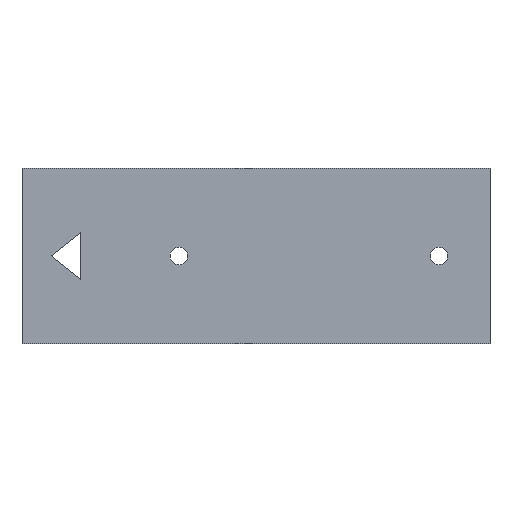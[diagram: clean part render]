
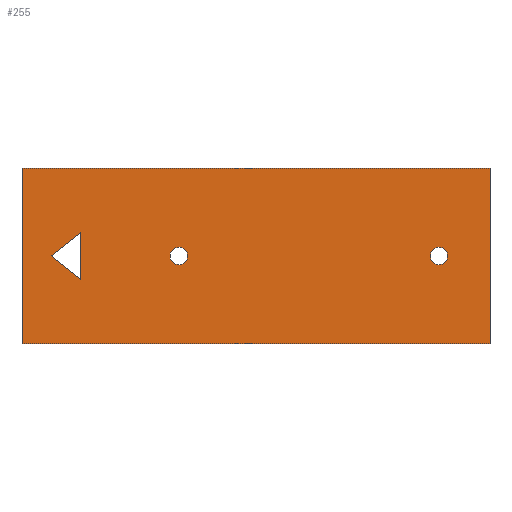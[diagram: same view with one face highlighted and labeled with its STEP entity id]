
A CAD part, top view. The second image highlights one B-rep face of the part: STEP entity #255.
In plain terms, the highlighted planar face has unit normal (0, 0, 1).
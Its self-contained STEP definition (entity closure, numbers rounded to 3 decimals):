
#6 = EDGE_CURVE ( 'NONE', #245, #384, #122, .T. ) ;
#8 = ORIENTED_EDGE ( 'NONE', *, *, #210, .T. ) ;
#9 = VERTEX_POINT ( 'NONE', #187 ) ;
#11 = VECTOR ( 'NONE', #21, 1000. ) ;
#12 = ORIENTED_EDGE ( 'NONE', *, *, #155, .F. ) ;
#16 = DIRECTION ( 'NONE',  ( -1., 0., 0. ) ) ;
#19 = CARTESIAN_POINT ( 'NONE',  ( 0., 30., 0.15 ) ) ;
#21 = DIRECTION ( 'NONE',  ( 0., 1., 0. ) ) ;
#30 = CARTESIAN_POINT ( 'NONE',  ( 72.8, 15., 0.15 ) ) ;
#35 = CARTESIAN_POINT ( 'NONE',  ( 5., 15., 0.15 ) ) ;
#42 = VECTOR ( 'NONE', #16, 1000. ) ;
#45 = VERTEX_POINT ( 'NONE', #104 ) ;
#46 = ORIENTED_EDGE ( 'NONE', *, *, #232, .F. ) ;
#49 = ORIENTED_EDGE ( 'NONE', *, *, #186, .F. ) ;
#54 = FACE_BOUND ( 'NONE', #249, .T. ) ;
#59 = DIRECTION ( 'NONE',  ( 1., 0., 0. ) ) ;
#62 = CARTESIAN_POINT ( 'NONE',  ( 0., 0., 0.15 ) ) ;
#66 = AXIS2_PLACEMENT_3D ( 'NONE', #74, #169, #304 ) ;
#68 = CARTESIAN_POINT ( 'NONE',  ( 28.3, 15., 0.15 ) ) ;
#70 = LINE ( 'NONE', #204, #276 ) ;
#74 = CARTESIAN_POINT ( 'NONE',  ( 71.3, 15., 0.15 ) ) ;
#83 = CARTESIAN_POINT ( 'NONE',  ( 0., 30., 0.15 ) ) ;
#84 = CIRCLE ( 'NONE', #217, 1.5 ) ;
#99 = CARTESIAN_POINT ( 'NONE',  ( 69.8, 15., 0.15 ) ) ;
#101 = CARTESIAN_POINT ( 'NONE',  ( 10., 11., 0.15 ) ) ;
#104 = CARTESIAN_POINT ( 'NONE',  ( 10., 19., 0.15 ) ) ;
#109 = AXIS2_PLACEMENT_3D ( 'NONE', #306, #225, #59 ) ;
#121 = AXIS2_PLACEMENT_3D ( 'NONE', #326, #185, #324 ) ;
#122 = LINE ( 'NONE', #325, #11 ) ;
#125 = CARTESIAN_POINT ( 'NONE',  ( 25.3, 15., 0.15 ) ) ;
#131 = CARTESIAN_POINT ( 'NONE',  ( 80., 30., 0.15 ) ) ;
#132 = ORIENTED_EDGE ( 'NONE', *, *, #409, .F. ) ;
#145 = ORIENTED_EDGE ( 'NONE', *, *, #6, .T. ) ;
#146 = VERTEX_POINT ( 'NONE', #68 ) ;
#153 = VERTEX_POINT ( 'NONE', #99 ) ;
#155 = EDGE_CURVE ( 'NONE', #166, #45, #240, .T. ) ;
#157 = FACE_OUTER_BOUND ( 'NONE', #367, .T. ) ;
#165 = DIRECTION ( 'NONE',  ( 0., -1., 0. ) ) ;
#166 = VERTEX_POINT ( 'NONE', #101 ) ;
#169 = DIRECTION ( 'NONE',  ( 0., 0., 1. ) ) ;
#171 = DIRECTION ( 'NONE',  ( -0.781, -0.625, 0. ) ) ;
#175 = DIRECTION ( 'NONE',  ( 0., 0., 1. ) ) ;
#177 = EDGE_CURVE ( 'NONE', #146, #278, #84, .T. ) ;
#184 = CARTESIAN_POINT ( 'NONE',  ( 80., 0., 0.15 ) ) ;
#185 = DIRECTION ( 'NONE',  ( 0., 0., -1. ) ) ;
#186 = EDGE_CURVE ( 'NONE', #352, #166, #338, .T. ) ;
#187 = CARTESIAN_POINT ( 'NONE',  ( 0., 0., 0.15 ) ) ;
#195 = VERTEX_POINT ( 'NONE', #30 ) ;
#199 = VECTOR ( 'NONE', #207, 1000. ) ;
#204 = CARTESIAN_POINT ( 'NONE',  ( 0., 0., 0.15 ) ) ;
#206 = EDGE_CURVE ( 'NONE', #195, #153, #355, .T. ) ;
#207 = DIRECTION ( 'NONE',  ( 0., 1., 0. ) ) ;
#209 = VECTOR ( 'NONE', #165, 1000. ) ;
#210 = EDGE_CURVE ( 'NONE', #9, #245, #70, .T. ) ;
#217 = AXIS2_PLACEMENT_3D ( 'NONE', #235, #175, #410 ) ;
#219 = ORIENTED_EDGE ( 'NONE', *, *, #365, .T. ) ;
#221 = ORIENTED_EDGE ( 'NONE', *, *, #177, .F. ) ;
#224 = FACE_BOUND ( 'NONE', #415, .T. ) ;
#225 = DIRECTION ( 'NONE',  ( 0., 0., 1. ) ) ;
#232 = EDGE_CURVE ( 'NONE', #45, #352, #341, .T. ) ;
#234 = DIRECTION ( 'NONE',  ( 1., 0., 0. ) ) ;
#235 = CARTESIAN_POINT ( 'NONE',  ( 26.8, 15., 0.15 ) ) ;
#240 = LINE ( 'NONE', #310, #199 ) ;
#242 = CIRCLE ( 'NONE', #300, 1.5 ) ;
#245 = VERTEX_POINT ( 'NONE', #184 ) ;
#246 = ORIENTED_EDGE ( 'NONE', *, *, #206, .F. ) ;
#249 = EDGE_LOOP ( 'NONE', ( #49, #46, #12 ) ) ;
#255 = ADVANCED_FACE ( 'NONE', ( #353, #224, #157, #54 ), #362, .F. ) ;
#263 = CIRCLE ( 'NONE', #109, 1.5 ) ;
#264 = EDGE_CURVE ( 'NONE', #384, #279, #427, .T. ) ;
#268 = DIRECTION ( 'NONE',  ( 0.781, -0.625, 0. ) ) ;
#276 = VECTOR ( 'NONE', #308, 1000. ) ;
#278 = VERTEX_POINT ( 'NONE', #125 ) ;
#279 = VERTEX_POINT ( 'NONE', #19 ) ;
#288 = VECTOR ( 'NONE', #268, 1000. ) ;
#298 = DIRECTION ( 'NONE',  ( 0., 0., 1. ) ) ;
#300 = AXIS2_PLACEMENT_3D ( 'NONE', #337, #298, #234 ) ;
#304 = DIRECTION ( 'NONE',  ( 1., 0., 0. ) ) ;
#306 = CARTESIAN_POINT ( 'NONE',  ( 71.3, 15., 0.15 ) ) ;
#308 = DIRECTION ( 'NONE',  ( 1., 0., 0. ) ) ;
#310 = CARTESIAN_POINT ( 'NONE',  ( 10., 19., 0.15 ) ) ;
#315 = EDGE_LOOP ( 'NONE', ( #132, #246 ) ) ;
#324 = DIRECTION ( 'NONE',  ( -1., 0., 0. ) ) ;
#325 = CARTESIAN_POINT ( 'NONE',  ( 80., 0., 0.15 ) ) ;
#326 = CARTESIAN_POINT ( 'NONE',  ( 0., 0., 0.15 ) ) ;
#332 = VECTOR ( 'NONE', #171, 1000. ) ;
#337 = CARTESIAN_POINT ( 'NONE',  ( 26.8, 15., 0.15 ) ) ;
#338 = LINE ( 'NONE', #372, #288 ) ;
#341 = LINE ( 'NONE', #35, #332 ) ;
#352 = VERTEX_POINT ( 'NONE', #391 ) ;
#353 = FACE_BOUND ( 'NONE', #315, .T. ) ;
#355 = CIRCLE ( 'NONE', #66, 1.5 ) ;
#361 = ORIENTED_EDGE ( 'NONE', *, *, #392, .F. ) ;
#362 = PLANE ( 'NONE',  #121 ) ;
#365 = EDGE_CURVE ( 'NONE', #279, #9, #430, .T. ) ;
#367 = EDGE_LOOP ( 'NONE', ( #219, #8, #145, #400 ) ) ;
#372 = CARTESIAN_POINT ( 'NONE',  ( 10., 11., 0.15 ) ) ;
#384 = VERTEX_POINT ( 'NONE', #131 ) ;
#391 = CARTESIAN_POINT ( 'NONE',  ( 5., 15., 0.15 ) ) ;
#392 = EDGE_CURVE ( 'NONE', #278, #146, #242, .T. ) ;
#400 = ORIENTED_EDGE ( 'NONE', *, *, #264, .T. ) ;
#409 = EDGE_CURVE ( 'NONE', #153, #195, #263, .T. ) ;
#410 = DIRECTION ( 'NONE',  ( 1., 0., 0. ) ) ;
#415 = EDGE_LOOP ( 'NONE', ( #361, #221 ) ) ;
#427 = LINE ( 'NONE', #83, #42 ) ;
#430 = LINE ( 'NONE', #62, #209 ) ;
